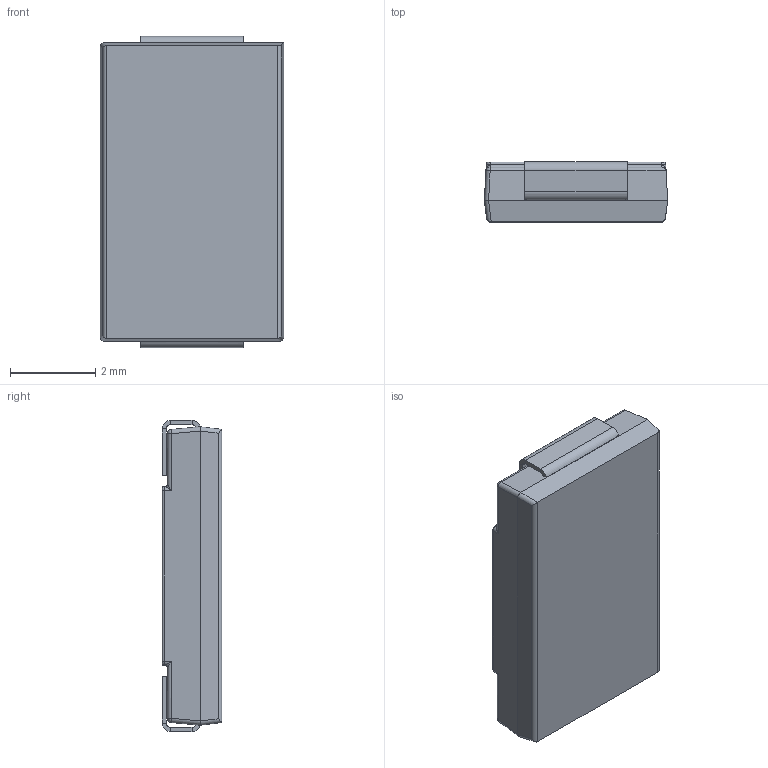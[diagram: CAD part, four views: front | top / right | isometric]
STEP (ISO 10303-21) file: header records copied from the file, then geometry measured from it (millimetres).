
FILE_DESCRIPTION (( 'STEP AP214' ), '1' );
FILE_NAME ('D15.STEP', '2019-08-06T02:32:03', ( '全社標準PC（ver1803）' ), ( 'パナソニック株式会社' ), 'SwSTEP 2.0', 'SolidWorks 2019', '' );
FILE_SCHEMA (( 'AUTOMOTIVE_DESIGN' ));
Length unit declared in the file: millimetre
Products named in the file (1): D15
Bounding box: 4.3 x 1.4 x 7.3 mm (x, y, z)
Surface area: 107.3 mm2 (no closed solid volume)
Topology: 0 solids, 3 shells, 86 faces, 223 edges, 132 vertices
Faces by surface type: plane 42, cylinder 31, bspline 10, sphere 3
Entity records: 3589 total; most frequent: CARTESIAN_POINT 740, ORIENTED_EDGE 394, DIRECTION 370, EDGE_CURVE 216, VERTEX_POINT 132, LINE 126, VECTOR 126, AXIS2_PLACEMENT_3D 122
